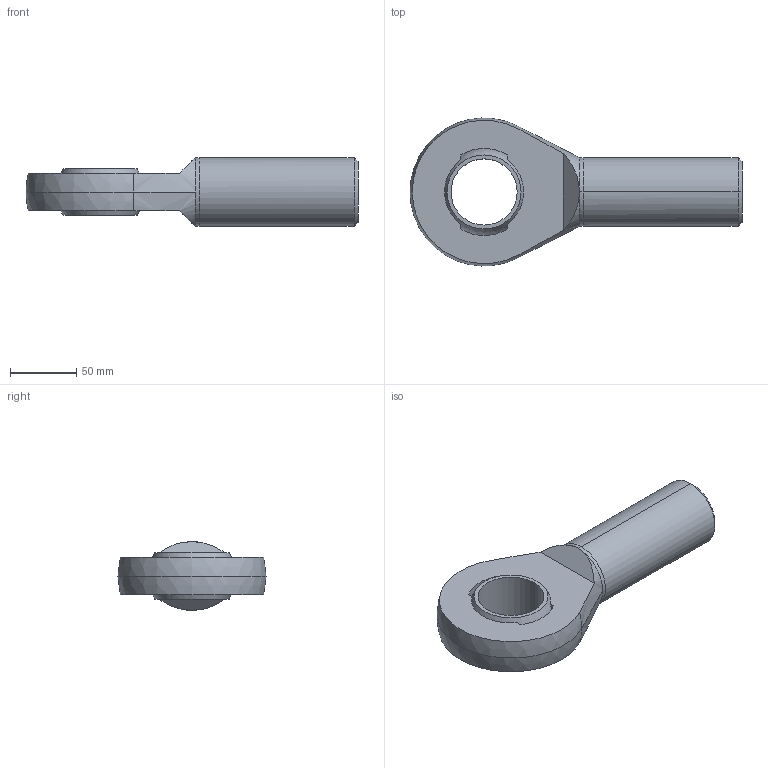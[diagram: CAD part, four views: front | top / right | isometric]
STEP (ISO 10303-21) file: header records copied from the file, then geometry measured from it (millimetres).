
FILE_DESCRIPTION (( 'STEP AP203' ), '1' );
FILE_NAME ('65860.W0050.step', '2014-02-06T11:45:24', ( 'User' ), ( '' ), 'SwSTEP 2.0', 'SolidWorks 2009', '' );
FILE_SCHEMA (( 'CONFIG_CONTROL_DESIGN' ));
Length unit declared in the file: millimetre
Products named in the file (3): Part1_65860.W0050; Part2_65860.W0050; 65860.W0050
Assembly tree (2 placements, depth 2):
  65860.W0050
    Part1_65860.W0050
    Part2_65860.W0050
Bounding box: 251 x 111.92 x 52 mm (x, y, z)
Volume: 521858.2 mm3; surface area: 66554.8 mm2
Topology: 2 solids, 2 shells, 35 faces, 82 edges, 51 vertices
Faces by surface type: plane 15, sphere 8, cylinder 8, cone 4
Entity records: 1389 total; most frequent: CARTESIAN_POINT 263, DIRECTION 196, ORIENTED_EDGE 160, AXIS2_PLACEMENT_3D 84, EDGE_CURVE 80, VERTEX_POINT 51, CIRCLE 44, EDGE_LOOP 41
